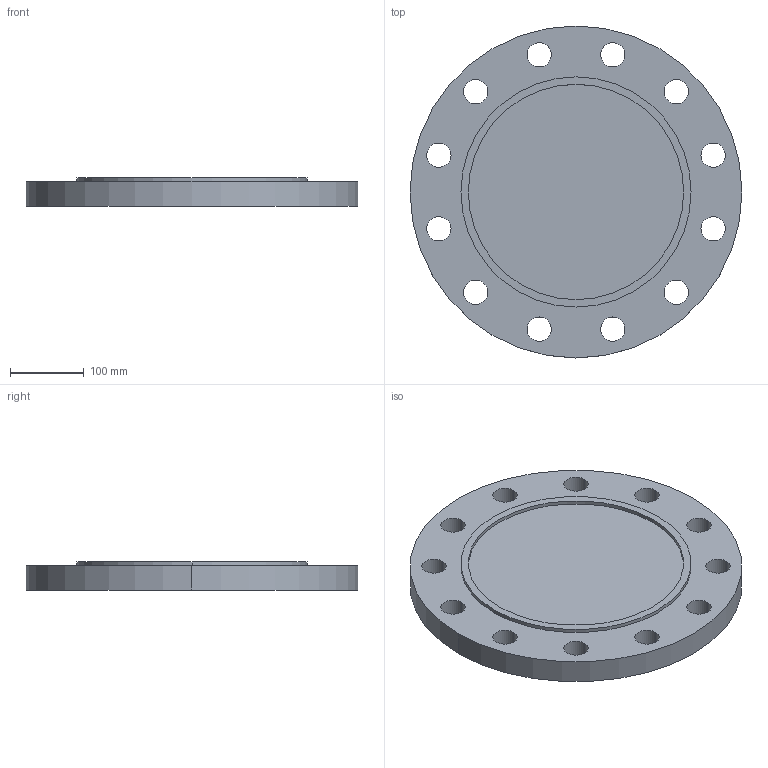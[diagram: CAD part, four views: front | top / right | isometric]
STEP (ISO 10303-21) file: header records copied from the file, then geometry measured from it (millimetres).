
FILE_DESCRIPTION (( 'STEP AP214' ), '1' );
FILE_NAME ('PN40 DN250 Type 05 - Type C Face.STEP', '2019-01-05T16:15:17', ( '' ), ( '' ), 'SwSTEP 2.0', 'SolidWorks 2019', '' );
FILE_SCHEMA (( 'AUTOMOTIVE_DESIGN' ));
Length unit declared in the file: millimetre
Products named in the file (1): PN40 DN250 Type 05 - Type C Face
Bounding box: 450 x 450 x 38 mm (x, y, z)
Volume: 4957163 mm3; surface area: 394753.7 mm2
Topology: 1 solids, 1 shells, 34 faces, 90 edges, 60 vertices
Faces by surface type: cylinder 30, plane 4
Entity records: 1176 total; most frequent: DIRECTION 220, CARTESIAN_POINT 185, ORIENTED_EDGE 180, AXIS2_PLACEMENT_3D 95, EDGE_CURVE 90, CIRCLE 60, EDGE_LOOP 60, VERTEX_POINT 60
